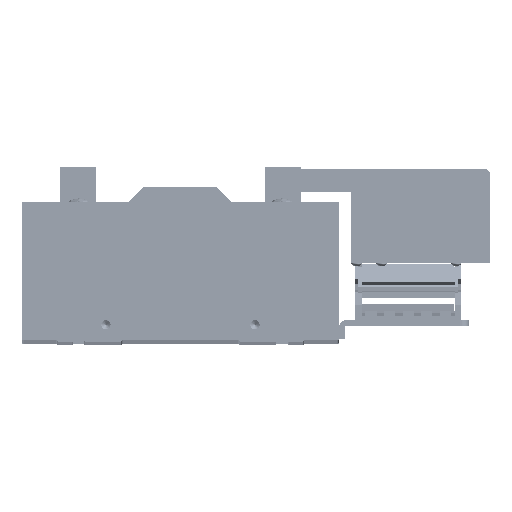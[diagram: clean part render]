
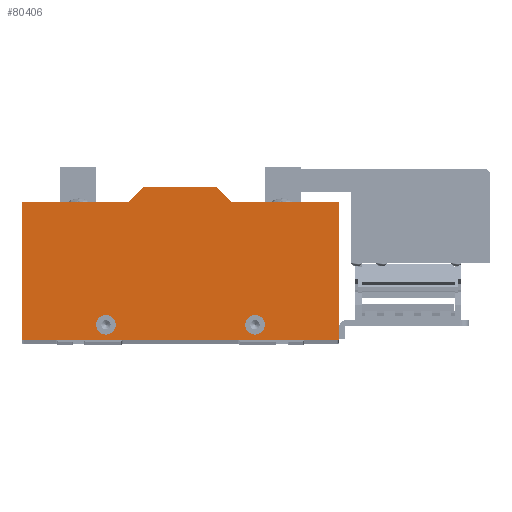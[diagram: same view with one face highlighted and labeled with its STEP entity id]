
A CAD part, top view. The second image highlights one B-rep face of the part: STEP entity #80406.
In plain terms, the highlighted planar face has unit normal (0, 0, 1).
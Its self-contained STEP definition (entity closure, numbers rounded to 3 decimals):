
#4331 = CARTESIAN_POINT ( 'NONE',  ( 85., 37., 9.525 ) ) ;
#15510 = CARTESIAN_POINT ( 'NONE',  ( -34.75, -29., 9.525 ) ) ;
#15512 = DIRECTION ( 'NONE',  ( 1., 0., 0. ) ) ;
#15514 = DIRECTION ( 'NONE',  ( 0., 0., 1. ) ) ;
#15515 = CARTESIAN_POINT ( 'NONE',  ( -40., -29., 9.525 ) ) ;
#15516 = AXIS2_PLACEMENT_3D ( 'NONE', #15515, #15514, #15512 ) ;
#15518 = CIRCLE ( 'NONE', #15516, 5.25 ) ;
#15526 = CARTESIAN_POINT ( 'NONE',  ( -45.25, -29., 9.525 ) ) ;
#18569 = VERTEX_POINT ( 'NONE', #4331 ) ;
#25481 = VERTEX_POINT ( 'NONE', #15526 ) ;
#25483 = EDGE_CURVE ( 'NONE', #25481, #25484, #15518, .T. ) ;
#25484 = VERTEX_POINT ( 'NONE', #15510 ) ;
#37810 = CARTESIAN_POINT ( 'NONE',  ( 34.75, -29., 9.525 ) ) ;
#37833 = CARTESIAN_POINT ( 'NONE',  ( 85., -37., 9.525 ) ) ;
#37889 = DIRECTION ( 'NONE',  ( 1., 0., 0. ) ) ;
#37890 = VECTOR ( 'NONE', #37889, 1000. ) ;
#37891 = CARTESIAN_POINT ( 'NONE',  ( -85., -37., 9.525 ) ) ;
#37892 = LINE ( 'NONE', #37891, #37890 ) ;
#37974 = DIRECTION ( 'NONE',  ( 0., 0., 1. ) ) ;
#37976 = CARTESIAN_POINT ( 'NONE',  ( 40., -29., 9.525 ) ) ;
#37977 = AXIS2_PLACEMENT_3D ( 'NONE', #37976, #37974, #38013 ) ;
#37980 = CIRCLE ( 'NONE', #37977, 5.25 ) ;
#38012 = CARTESIAN_POINT ( 'NONE',  ( 45.25, -29., 9.525 ) ) ;
#38013 = DIRECTION ( 'NONE',  ( 1., 0., 0. ) ) ;
#38037 = CARTESIAN_POINT ( 'NONE',  ( -85., 37., 9.525 ) ) ;
#38038 = DIRECTION ( 'NONE',  ( 0., -1., 0. ) ) ;
#38039 = VECTOR ( 'NONE', #38038, 1000. ) ;
#38040 = CARTESIAN_POINT ( 'NONE',  ( -85., 37., 9.525 ) ) ;
#38041 = LINE ( 'NONE', #38040, #38039 ) ;
#38061 = CARTESIAN_POINT ( 'NONE',  ( -85., -37., 9.525 ) ) ;
#58643 = ORIENTED_EDGE ( 'NONE', *, *, #80088, .T. ) ;
#58670 = ORIENTED_EDGE ( 'NONE', *, *, #75660, .T. ) ;
#68594 = ORIENTED_EDGE ( 'NONE', *, *, #80160, .T. ) ;
#68709 = ORIENTED_EDGE ( 'NONE', *, *, #80173, .T. ) ;
#68755 = ORIENTED_EDGE ( 'NONE', *, *, #80294, .T. ) ;
#68851 = ORIENTED_EDGE ( 'NONE', *, *, #80137, .T. ) ;
#75605 = VERTEX_POINT ( 'NONE', #37810 ) ;
#75647 = VERTEX_POINT ( 'NONE', #37833 ) ;
#75660 = EDGE_CURVE ( 'NONE', #75755, #75647, #37892, .T. ) ;
#75731 = EDGE_CURVE ( 'NONE', #75605, #75732, #37980, .T. ) ;
#75732 = VERTEX_POINT ( 'NONE', #38012 ) ;
#75755 = VERTEX_POINT ( 'NONE', #38061 ) ;
#75771 = EDGE_CURVE ( 'NONE', #75773, #75755, #38041, .T. ) ;
#75773 = VERTEX_POINT ( 'NONE', #38037 ) ;
#79699 = DIRECTION ( 'NONE',  ( -1., 0., 0. ) ) ;
#79700 = VECTOR ( 'NONE', #79699, 1000. ) ;
#79703 = CARTESIAN_POINT ( 'NONE',  ( 27.5, 37., 9.525 ) ) ;
#79704 = LINE ( 'NONE', #79703, #79700 ) ;
#79776 = LINE ( 'NONE', #79933, #79931 ) ;
#79929 = DIRECTION ( 'NONE',  ( 0., 1., 0. ) ) ;
#79931 = VECTOR ( 'NONE', #79929, 1000. ) ;
#79933 = CARTESIAN_POINT ( 'NONE',  ( 85., 37., 9.525 ) ) ;
#80002 = DIRECTION ( 'NONE',  ( -0.707, -0.707, 0. ) ) ;
#80004 = VECTOR ( 'NONE', #80002, 1000. ) ;
#80006 = CARTESIAN_POINT ( 'NONE',  ( -27.5, 37., 9.525 ) ) ;
#80009 = LINE ( 'NONE', #80006, #80004 ) ;
#80039 = EDGE_CURVE ( 'NONE', #18569, #80195, #79704, .T. ) ;
#80044 = CARTESIAN_POINT ( 'NONE',  ( -27.5, 37., 9.525 ) ) ;
#80047 = CARTESIAN_POINT ( 'NONE',  ( 19.5, 45., 9.525 ) ) ;
#80049 = CARTESIAN_POINT ( 'NONE',  ( 27.5, 37., 9.525 ) ) ;
#80054 = CARTESIAN_POINT ( 'NONE',  ( -19.5, 45., 9.525 ) ) ;
#80082 = DIRECTION ( 'NONE',  ( -1., 0., 0. ) ) ;
#80083 = VECTOR ( 'NONE', #80082, 1000. ) ;
#80084 = CARTESIAN_POINT ( 'NONE',  ( -85., 37., 9.525 ) ) ;
#80085 = LINE ( 'NONE', #80084, #80083 ) ;
#80088 = EDGE_CURVE ( 'NONE', #75647, #18569, #79776, .T. ) ;
#80107 = DIRECTION ( 'NONE',  ( -0.707, 0.707, 0. ) ) ;
#80109 = VECTOR ( 'NONE', #80107, 1000. ) ;
#80111 = CARTESIAN_POINT ( 'NONE',  ( 19.5, 45., 9.525 ) ) ;
#80113 = LINE ( 'NONE', #80111, #80109 ) ;
#80137 = EDGE_CURVE ( 'NONE', #80186, #80199, #80009, .T. ) ;
#80160 = EDGE_CURVE ( 'NONE', #80195, #80197, #80113, .T. ) ;
#80173 = EDGE_CURVE ( 'NONE', #80199, #75773, #80085, .T. ) ;
#80186 = VERTEX_POINT ( 'NONE', #80054 ) ;
#80195 = VERTEX_POINT ( 'NONE', #80049 ) ;
#80197 = VERTEX_POINT ( 'NONE', #80047 ) ;
#80199 = VERTEX_POINT ( 'NONE', #80044 ) ;
#80294 = EDGE_CURVE ( 'NONE', #80197, #80186, #80370, .T. ) ;
#80366 = DIRECTION ( 'NONE',  ( -1., 0., 0. ) ) ;
#80368 = VECTOR ( 'NONE', #80366, 1000. ) ;
#80369 = CARTESIAN_POINT ( 'NONE',  ( -19.5, 45., 9.525 ) ) ;
#80370 = LINE ( 'NONE', #80369, #80368 ) ;
#80382 = ORIENTED_EDGE ( 'NONE', *, *, #25483, .F. ) ;
#80383 = ORIENTED_EDGE ( 'NONE', *, *, #80385, .F. ) ;
#80385 = EDGE_CURVE ( 'NONE', #75732, #75605, #80614, .T. ) ;
#80388 = ORIENTED_EDGE ( 'NONE', *, *, #75731, .F. ) ;
#80393 = EDGE_LOOP ( 'NONE', ( #80395, #58670, #58643, #89076, #68594, #68755, #68851, #68709 ) ) ;
#80395 = ORIENTED_EDGE ( 'NONE', *, *, #75771, .T. ) ;
#80397 = ORIENTED_EDGE ( 'NONE', *, *, #80399, .F. ) ;
#80399 = EDGE_CURVE ( 'NONE', #25484, #25481, #80571, .T. ) ;
#80402 = EDGE_LOOP ( 'NONE', ( #80383, #80388 ) ) ;
#80404 = EDGE_LOOP ( 'NONE', ( #80397, #80382 ) ) ;
#80406 = ADVANCED_FACE ( 'NONE', ( #80552, #80549, #80548 ), #80716, .T. ) ;
#80548 = FACE_OUTER_BOUND ( 'NONE', #80393, .T. ) ;
#80549 = FACE_BOUND ( 'NONE', #80402, .T. ) ;
#80552 = FACE_BOUND ( 'NONE', #80404, .T. ) ;
#80564 = DIRECTION ( 'NONE',  ( 1., 0., 0. ) ) ;
#80567 = DIRECTION ( 'NONE',  ( 0., 0., 1. ) ) ;
#80568 = CARTESIAN_POINT ( 'NONE',  ( -40., -29., 9.525 ) ) ;
#80569 = AXIS2_PLACEMENT_3D ( 'NONE', #80568, #80567, #80564 ) ;
#80571 = CIRCLE ( 'NONE', #80569, 5.25 ) ;
#80605 = DIRECTION ( 'NONE',  ( 1., 0., 0. ) ) ;
#80608 = DIRECTION ( 'NONE',  ( 0., 0., 1. ) ) ;
#80610 = CARTESIAN_POINT ( 'NONE',  ( 40., -29., 9.525 ) ) ;
#80611 = AXIS2_PLACEMENT_3D ( 'NONE', #80610, #80608, #80605 ) ;
#80614 = CIRCLE ( 'NONE', #80611, 5.25 ) ;
#80709 = DIRECTION ( 'NONE',  ( 1., 0., 0. ) ) ;
#80711 = DIRECTION ( 'NONE',  ( 0., 0., 1. ) ) ;
#80713 = CARTESIAN_POINT ( 'NONE',  ( -85., 37., 9.525 ) ) ;
#80714 = AXIS2_PLACEMENT_3D ( 'NONE', #80713, #80711, #80709 ) ;
#80716 = PLANE ( 'NONE',  #80714 ) ;
#89076 = ORIENTED_EDGE ( 'NONE', *, *, #80039, .T. ) ;
